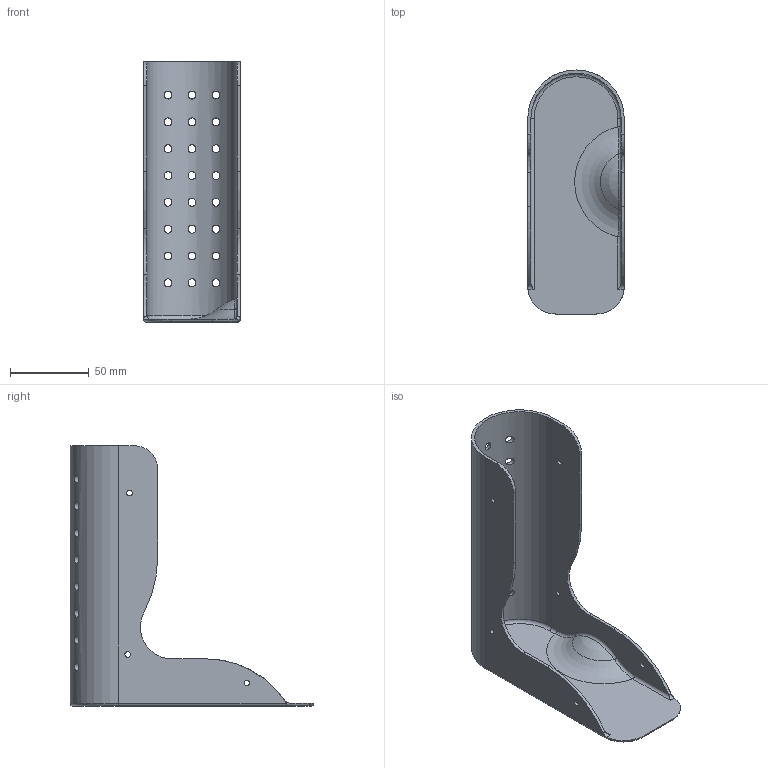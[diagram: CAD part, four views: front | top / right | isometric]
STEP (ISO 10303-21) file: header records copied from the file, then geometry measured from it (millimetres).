
FILE_DESCRIPTION(/* description */ (''),/* implementation_level */ '2;1');
FILE_NAME(/* name */ 'AFO size L right foot.step',/* time_stamp */ '2025-11-07T10:38:04+01:00',/* author */ (''),/* organization */ (''),/* preprocessor_version */ 'ST-DEVELOPER v20.1',/* originating_system */ 'Autodesk Translation Framework v14.17.0.0',/* authorisation */ '');
FILE_SCHEMA (('AUTOMOTIVE_DESIGN { 1 0 10303 214 3 1 1 }'));
Length unit declared in the file: millimetre
Products named in the file (1): 2025-10-02-12-56-12-317
Bounding box: 61.2 x 154.43 x 165.1 mm (x, y, z)
Volume: 69013.6 mm3; surface area: 70329.1 mm2
Topology: 1 solids, 1 shells, 77 faces, 273 edges, 198 vertices
Faces by surface type: cylinder 49, plane 11, torus 9, bspline 6, sphere 2
Full cylindrical faces by diameter (mm): 3.5 x6, 5 x24
Entity records: 4851 total; most frequent: CARTESIAN_POINT 2533, ORIENTED_EDGE 546, DIRECTION 350, EDGE_CURVE 273, VERTEX_POINT 198, EDGE_LOOP 137, AXIS2_PLACEMENT_3D 137, B_SPLINE_CURVE_WITH_KNOTS 132
